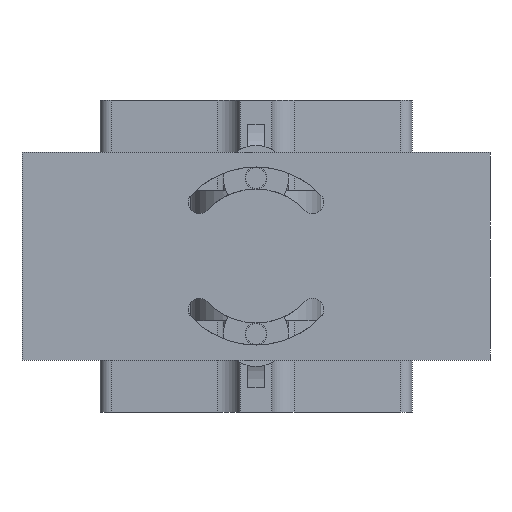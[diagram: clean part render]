
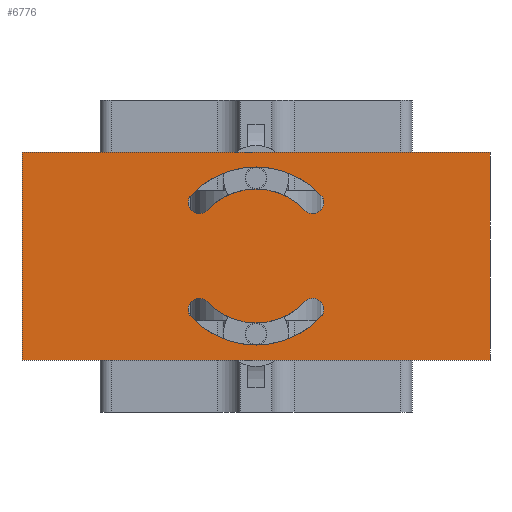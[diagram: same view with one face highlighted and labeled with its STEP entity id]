
A CAD part, front view. The second image highlights one B-rep face of the part: STEP entity #6776.
In plain terms, the highlighted planar face has unit normal (0, -1, 0).
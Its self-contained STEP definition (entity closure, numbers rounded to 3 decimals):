
#2207=DIRECTION('',(1.,0.,0.));
#2208=VECTOR('',#2207,180.);
#2209=CARTESIAN_POINT('',(-90.,0.,40.));
#2210=LINE('',#2209,#2208);
#2211=CARTESIAN_POINT('',(-21.889,0.,20.515));
#2212=DIRECTION('',(0.,-1.,0.));
#2213=DIRECTION('',(-0.73,0.,0.684));
#2214=AXIS2_PLACEMENT_3D('',#2211,#2212,#2213);
#2216=CARTESIAN_POINT('',(0.,0.,0.));
#2217=DIRECTION('',(0.,-1.,0.));
#2218=DIRECTION('',(0.73,0.,0.684));
#2219=AXIS2_PLACEMENT_3D('',#2216,#2217,#2218);
#2221=CARTESIAN_POINT('',(21.889,0.,20.515));
#2222=DIRECTION('',(0.,-1.,0.));
#2223=DIRECTION('',(-0.729,0.,-0.684));
#2224=AXIS2_PLACEMENT_3D('',#2221,#2222,#2223);
#2226=CARTESIAN_POINT('',(0.,0.,0.));
#2227=DIRECTION('',(0.,-1.,0.));
#2228=DIRECTION('',(0.73,0.,0.684));
#2229=AXIS2_PLACEMENT_3D('',#2226,#2227,#2228);
#2231=CARTESIAN_POINT('',(-21.889,0.,-20.515));
#2232=DIRECTION('',(0.,-1.,0.));
#2233=DIRECTION('',(0.729,0.,0.684));
#2234=AXIS2_PLACEMENT_3D('',#2231,#2232,#2233);
#2236=CARTESIAN_POINT('',(0.,0.,0.));
#2237=DIRECTION('',(0.,-1.,0.));
#2238=DIRECTION('',(-0.73,0.,-0.684));
#2239=AXIS2_PLACEMENT_3D('',#2236,#2237,#2238);
#2241=CARTESIAN_POINT('',(21.889,0.,-20.515));
#2242=DIRECTION('',(0.,-1.,0.));
#2243=DIRECTION('',(0.73,0.,-0.684));
#2244=AXIS2_PLACEMENT_3D('',#2241,#2242,#2243);
#2246=CARTESIAN_POINT('',(0.,0.,0.));
#2247=DIRECTION('',(0.,-1.,0.));
#2248=DIRECTION('',(-0.73,0.,-0.684));
#2249=AXIS2_PLACEMENT_3D('',#2246,#2247,#2248);
#2251=DIRECTION('',(1.,0.,0.));
#2252=VECTOR('',#2251,180.);
#2253=CARTESIAN_POINT('',(-90.,0.,-40.));
#2254=LINE('',#2253,#2252);
#2436=DIRECTION('',(0.,0.,-1.));
#2437=VECTOR('',#2436,80.);
#2438=CARTESIAN_POINT('',(-90.,0.,40.));
#2439=LINE('',#2438,#2437);
#2471=DIRECTION('',(0.,0.,-1.));
#2472=VECTOR('',#2471,80.);
#2473=CARTESIAN_POINT('',(90.,0.,40.));
#2474=LINE('',#2473,#2472);
#3261=CARTESIAN_POINT('',(24.99,0.,23.421));
#3263=VERTEX_POINT('',#3261);
#3265=CARTESIAN_POINT('',(18.789,0.,17.608));
#3267=VERTEX_POINT('',#3265);
#3269=CARTESIAN_POINT('',(-18.788,0.,17.609));
#3271=VERTEX_POINT('',#3269);
#3273=CARTESIAN_POINT('',(-24.99,0.,23.421));
#3275=VERTEX_POINT('',#3273);
#3277=CARTESIAN_POINT('',(18.789,0.,-17.608));
#3279=VERTEX_POINT('',#3277);
#3281=CARTESIAN_POINT('',(24.99,0.,-23.421));
#3283=VERTEX_POINT('',#3281);
#3285=CARTESIAN_POINT('',(-24.99,0.,-23.421));
#3287=VERTEX_POINT('',#3285);
#3289=CARTESIAN_POINT('',(-18.788,0.,-17.609));
#3291=VERTEX_POINT('',#3289);
#3313=CARTESIAN_POINT('',(-90.,0.,40.));
#3314=VERTEX_POINT('',#3313);
#3315=CARTESIAN_POINT('',(-90.,0.,-40.));
#3316=VERTEX_POINT('',#3315);
#3333=CARTESIAN_POINT('',(90.,0.,40.));
#3334=VERTEX_POINT('',#3333);
#3335=CARTESIAN_POINT('',(90.,0.,-40.));
#3336=VERTEX_POINT('',#3335);
#6742=CARTESIAN_POINT('',(40.,0.,-40.));
#6743=DIRECTION('',(0.,-1.,0.));
#6744=DIRECTION('',(0.,0.,1.));
#6745=AXIS2_PLACEMENT_3D('',#6742,#6743,#6744);
#6746=PLANE('',#6745);
#6748=ORIENTED_EDGE('',*,*,#6747,.F.);
#6750=ORIENTED_EDGE('',*,*,#6749,.F.);
#6751=ORIENTED_EDGE('',*,*,#6732,.T.);
#6753=ORIENTED_EDGE('',*,*,#6752,.T.);
#6754=EDGE_LOOP('',(#6748,#6750,#6751,#6753));
#6755=FACE_OUTER_BOUND('',#6754,.F.);
#6757=ORIENTED_EDGE('',*,*,#6756,.T.);
#6759=ORIENTED_EDGE('',*,*,#6758,.F.);
#6761=ORIENTED_EDGE('',*,*,#6760,.T.);
#6763=ORIENTED_EDGE('',*,*,#6762,.T.);
#6764=EDGE_LOOP('',(#6757,#6759,#6761,#6763));
#6765=FACE_BOUND('',#6764,.F.);
#6767=ORIENTED_EDGE('',*,*,#6766,.T.);
#6769=ORIENTED_EDGE('',*,*,#6768,.T.);
#6771=ORIENTED_EDGE('',*,*,#6770,.T.);
#6773=ORIENTED_EDGE('',*,*,#6772,.F.);
#6774=EDGE_LOOP('',(#6767,#6769,#6771,#6773));
#6775=FACE_BOUND('',#6774,.F.);
#2215=CIRCLE('',#2214,4.25);
#2220=CIRCLE('',#2219,25.75);
#2225=CIRCLE('',#2224,4.25);
#2230=CIRCLE('',#2229,34.25);
#2235=CIRCLE('',#2234,4.25);
#2240=CIRCLE('',#2239,34.25);
#2245=CIRCLE('',#2244,4.25);
#2250=CIRCLE('',#2249,25.75);
#6732=EDGE_CURVE('',#3314,#3334,#2210,.T.);
#6747=EDGE_CURVE('',#3316,#3336,#2254,.T.);
#6749=EDGE_CURVE('',#3314,#3316,#2439,.T.);
#6752=EDGE_CURVE('',#3334,#3336,#2474,.T.);
#6756=EDGE_CURVE('',#3275,#3271,#2215,.T.);
#6758=EDGE_CURVE('',#3267,#3271,#2220,.T.);
#6760=EDGE_CURVE('',#3267,#3263,#2225,.T.);
#6762=EDGE_CURVE('',#3263,#3275,#2230,.T.);
#6766=EDGE_CURVE('',#3291,#3287,#2235,.T.);
#6768=EDGE_CURVE('',#3287,#3283,#2240,.T.);
#6770=EDGE_CURVE('',#3283,#3279,#2245,.T.);
#6772=EDGE_CURVE('',#3291,#3279,#2250,.T.);
#6776=ADVANCED_FACE('',(#6755,#6765,#6775),#6746,.T.);
